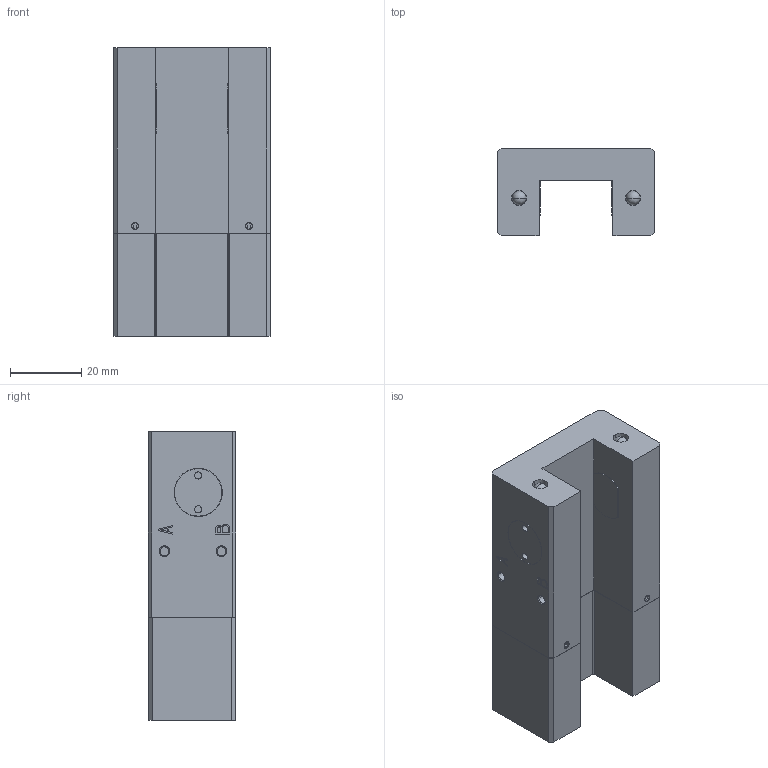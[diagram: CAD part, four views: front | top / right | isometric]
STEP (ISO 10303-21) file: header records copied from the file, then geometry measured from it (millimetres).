
FILE_DESCRIPTION( ( '' ), '1' );
FILE_NAME( 'E:/04 嬴檜蠱滌/0404 ZIMMER/040414 ZIMMER CAD download/LKPS/LKPS2001AS2---.stp', '2020-04-16T09:47:04', ( '' ), ( '' ), ' ', ' ', ' ' );
FILE_SCHEMA( ( 'automotive_design' ) );
Length unit declared in the file: millimetre
Products named in the file (1): 1
Bounding box: 44 x 24.5 x 80.9 mm (x, y, z)
Volume: 60109.7 mm3; surface area: 16266 mm2
Topology: 1 solids, 1 shells, 277 faces, 656 edges, 430 vertices
Faces by surface type: plane 175, cylinder 78, cone 16, sphere 4, torus 4
Entity records: 15608 total; most frequent: DIRECTION 1412, STYLED_ITEM 1360, PRESENTATION_STYLE_ASSIGNMENT 1360, CARTESIAN_POINT 1360, COLOUR_RGB 1360, ORIENTED_EDGE 1304, EDGE_CURVE 652, CURVE_STYLE 652
